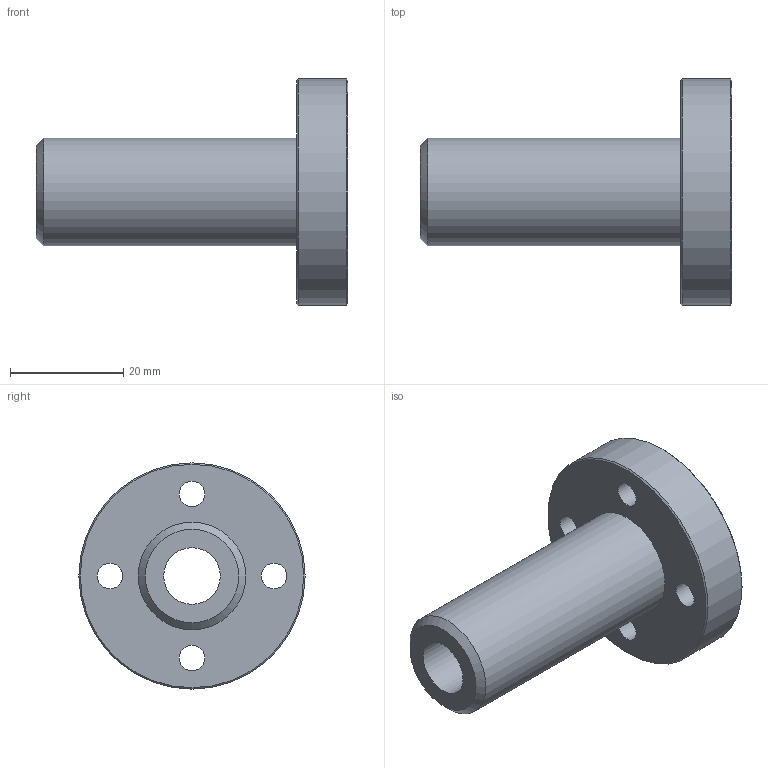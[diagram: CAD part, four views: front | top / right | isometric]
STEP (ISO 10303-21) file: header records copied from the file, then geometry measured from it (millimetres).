
FILE_DESCRIPTION(('STEP AP203'),'1');
FILE_NAME('//192.168.1.1/share/s-4 技術開発/s-4-4_CAD/s-4-4-3_見直し済み/PBC LINEAR修正済み/DFPJ/DFPJ_TOP/DFPJR/DFPJR10.step','2022-03-24T05:40:43',(' '),(' '),'Spatial InterOp 3D',' ',' ');
FILE_SCHEMA(('CONFIG_CONTROL_DESIGN'));
Length unit declared in the file: millimetre
Products named in the file (1): 1
Bounding box: 55 x 40 x 40 mm (x, y, z)
Volume: 18943.5 mm3; surface area: 8413.8 mm2
Topology: 1 solids, 1 shells, 21 faces, 45 edges, 31 vertices
Faces by surface type: cylinder 11, plane 7, cone 3
Full cylindrical faces by diameter (mm): 4.5 x4, 7.5 x4, 10 x1, 19 x1, 40 x1
Entity records: 528 total; most frequent: DIRECTION 94, CARTESIAN_POINT 72, EDGE_LOOP 50, ORIENTED_EDGE 50, AXIS2_PLACEMENT_3D 47, FACE_OUTER_BOUND 32, EDGE_CURVE 25, VERTEX_POINT 25
